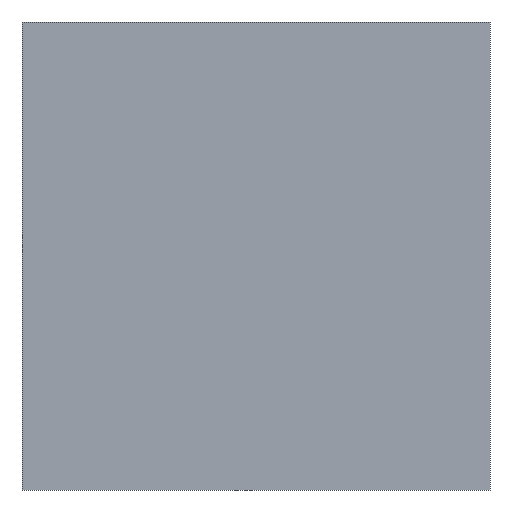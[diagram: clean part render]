
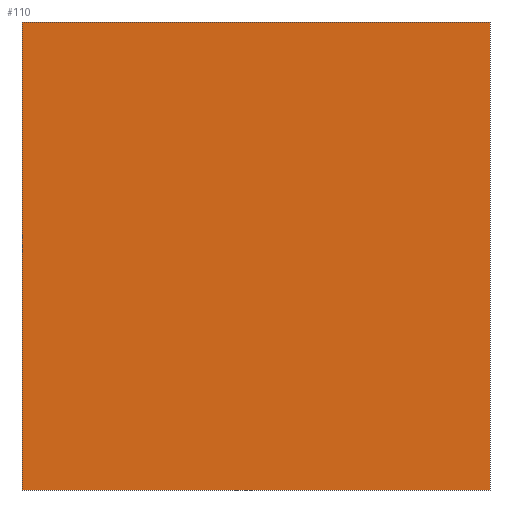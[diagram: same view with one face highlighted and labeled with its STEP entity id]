
A CAD part, front view. The second image highlights one B-rep face of the part: STEP entity #110.
In plain terms, the highlighted planar face has unit normal (0, -1, 0).
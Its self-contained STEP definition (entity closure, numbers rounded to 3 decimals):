
#50=FACE_OUTER_BOUND('',#55,.T.);
#55=EDGE_LOOP('',(#97,#98,#99,#100));
#57=LINE('',#204,#65);
#60=LINE('',#210,#68);
#62=LINE('',#213,#70);
#63=LINE('',#215,#71);
#65=VECTOR('',#157,10.);
#68=VECTOR('',#162,10.);
#70=VECTOR('',#166,10.);
#71=VECTOR('',#169,10.);
#73=VERTEX_POINT('',#201);
#74=VERTEX_POINT('',#203);
#75=VERTEX_POINT('',#207);
#76=VERTEX_POINT('',#209);
#78=EDGE_CURVE('',#73,#74,#57,.T.);
#81=EDGE_CURVE('',#75,#76,#60,.T.);
#83=EDGE_CURVE('',#74,#75,#62,.T.);
#84=EDGE_CURVE('',#76,#73,#63,.T.);
#97=ORIENTED_EDGE('',*,*,#83,.F.);
#98=ORIENTED_EDGE('',*,*,#78,.F.);
#99=ORIENTED_EDGE('',*,*,#84,.F.);
#100=ORIENTED_EDGE('',*,*,#81,.F.);
#105=PLANE('',#138);
#110=ADVANCED_FACE('',(#50),#105,.F.);
#138=AXIS2_PLACEMENT_3D('',#216,#170,#171);
#157=DIRECTION('',(-1.,0.,0.));
#162=DIRECTION('',(1.,0.,0.));
#166=DIRECTION('',(0.,0.,1.));
#169=DIRECTION('',(0.,0.,-1.));
#170=DIRECTION('center_axis',(0.,1.,0.));
#171=DIRECTION('ref_axis',(0.,0.,1.));
#201=CARTESIAN_POINT('',(20.,0.,-20.));
#203=CARTESIAN_POINT('',(-20.,0.,-20.));
#204=CARTESIAN_POINT('',(20.,0.,-20.));
#207=CARTESIAN_POINT('',(-20.,0.,20.));
#209=CARTESIAN_POINT('',(20.,0.,20.));
#210=CARTESIAN_POINT('',(-20.,0.,20.));
#213=CARTESIAN_POINT('',(-20.,0.,-20.));
#215=CARTESIAN_POINT('',(20.,0.,20.));
#216=CARTESIAN_POINT('Origin',(0.,0.,0.));
